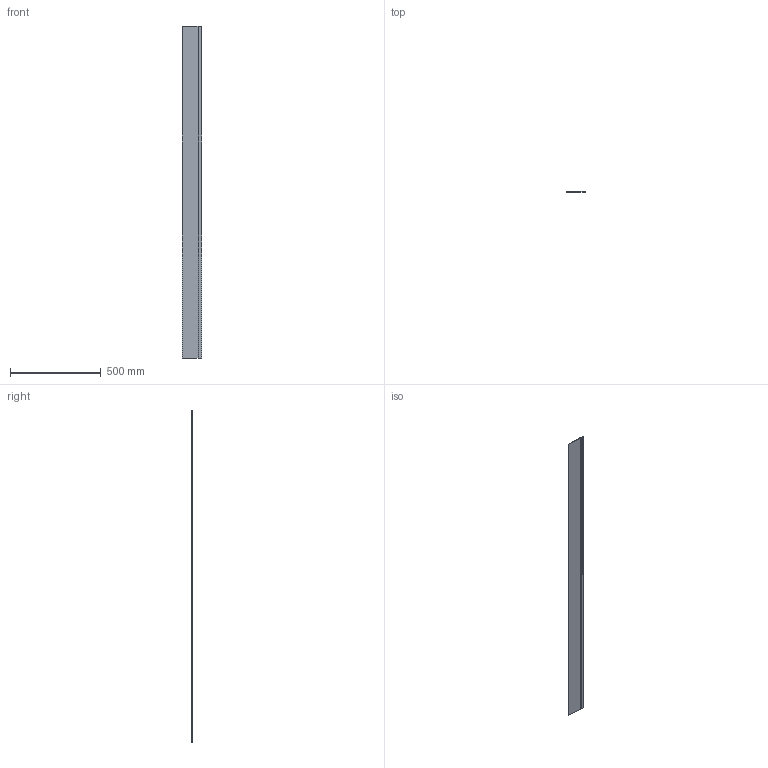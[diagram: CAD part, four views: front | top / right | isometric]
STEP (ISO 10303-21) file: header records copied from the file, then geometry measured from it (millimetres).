
FILE_DESCRIPTION (( 'STEP AP214' ), '1' );
FILE_NAME ('IST4 SIDE TRIM.STEP', '2016-07-14T15:50:40', ( 'BMC' ), ( 'Bard Manufacturing Co., Inc.' ), 'SwSTEP 2.0', 'SolidWorks 2016', '' );
FILE_SCHEMA (( 'AUTOMOTIVE_DESIGN' ));
Length unit declared in the file: inch
Products named in the file (3): IST4 SIDE TRIM; Part7^MD-4412; 102-498
Assembly tree (2 placements, depth 2):
  IST4 SIDE TRIM
    102-498
    Part7^MD-4412
Bounding box: 108.01 x 4.11 x 1828.8 mm (x, y, z)
Surface area: 455988.7 mm2 (no closed solid volume)
Topology: 0 solids, 2 shells, 20 faces, 48 edges, 32 vertices
Faces by surface type: plane 16, cylinder 4
Entity records: 678 total; most frequent: DIRECTION 106, CARTESIAN_POINT 105, ORIENTED_EDGE 96, EDGE_CURVE 48, VECTOR 40, LINE 40, AXIS2_PLACEMENT_3D 33, VERTEX_POINT 32
